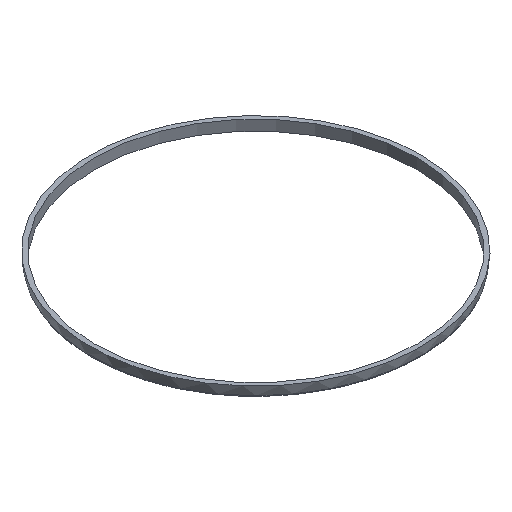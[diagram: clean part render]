
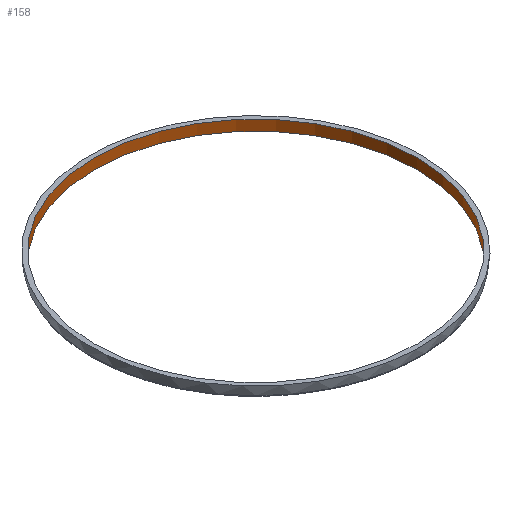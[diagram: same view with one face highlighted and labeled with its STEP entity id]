
A CAD part, isometric view. The second image highlights one B-rep face of the part: STEP entity #158.
In plain terms, the highlighted cylindrical face has radius 13.14 mm (diameter 26.28 mm), a full revolution.
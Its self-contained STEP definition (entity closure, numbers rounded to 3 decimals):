
#48 = EDGE_CURVE('',#49,#49,#51,.T.);
#49 = VERTEX_POINT('',#50);
#50 = CARTESIAN_POINT('',(13.14,0.,-5.1));
#51 = CIRCLE('',#52,13.14);
#52 = AXIS2_PLACEMENT_3D('',#53,#54,#55);
#53 = CARTESIAN_POINT('',(0.,0.,-5.1));
#54 = DIRECTION('',(0.,0.,1.));
#55 = DIRECTION('',(1.,0.,0.));
#158 = ADVANCED_FACE('',(#159),#178,.F.);
#159 = FACE_BOUND('',#160,.F.);
#160 = EDGE_LOOP('',(#161,#170,#176,#177));
#161 = ORIENTED_EDGE('',*,*,#162,.F.);
#162 = EDGE_CURVE('',#163,#163,#165,.T.);
#163 = VERTEX_POINT('',#164);
#164 = CARTESIAN_POINT('',(13.14,0.,-4.25));
#165 = CIRCLE('',#166,13.14);
#166 = AXIS2_PLACEMENT_3D('',#167,#168,#169);
#167 = CARTESIAN_POINT('',(0.,0.,-4.25));
#168 = DIRECTION('',(0.,0.,1.));
#169 = DIRECTION('',(1.,0.,0.));
#170 = ORIENTED_EDGE('',*,*,#171,.F.);
#171 = EDGE_CURVE('',#49,#163,#172,.T.);
#172 = LINE('',#173,#174);
#173 = CARTESIAN_POINT('',(13.14,0.,-5.1));
#174 = VECTOR('',#175,1.);
#175 = DIRECTION('',(0.,0.,1.));
#176 = ORIENTED_EDGE('',*,*,#48,.T.);
#177 = ORIENTED_EDGE('',*,*,#171,.T.);
#178 = CYLINDRICAL_SURFACE('',#179,13.14);
#179 = AXIS2_PLACEMENT_3D('',#180,#181,#182);
#180 = CARTESIAN_POINT('',(0.,0.,-5.1));
#181 = DIRECTION('',(0.,0.,1.));
#182 = DIRECTION('',(1.,0.,0.));
